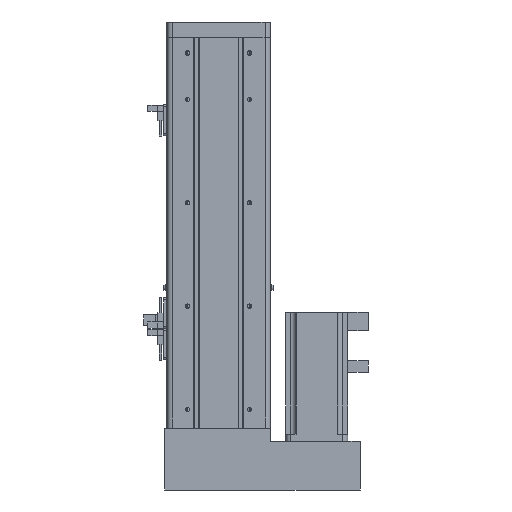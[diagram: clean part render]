
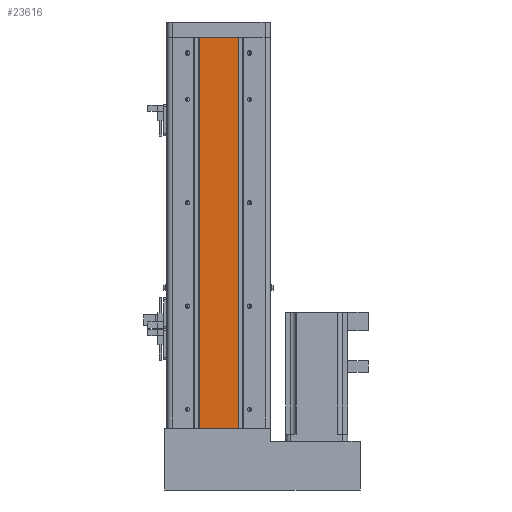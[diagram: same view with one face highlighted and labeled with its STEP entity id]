
A CAD part, front view. The second image highlights one B-rep face of the part: STEP entity #23616.
In plain terms, the highlighted planar face has unit normal (0, -1, 0).
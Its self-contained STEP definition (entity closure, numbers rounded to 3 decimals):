
#15457 = CARTESIAN_POINT ( 'NONE',  ( -25.17, -29.672, 0. ) ) ;
#15460 = DIRECTION ( 'NONE',  ( -1., 0., 0. ) ) ;
#15462 = VECTOR ( 'NONE', #15460, 1000. ) ;
#15465 = CARTESIAN_POINT ( 'NONE',  ( -45.27, -29.672, 0. ) ) ;
#15467 = LINE ( 'NONE', #15465, #15462 ) ;
#15922 = DIRECTION ( 'NONE',  ( -1., 0., 0. ) ) ;
#15923 = VECTOR ( 'NONE', #15922, 1000. ) ;
#15924 = CARTESIAN_POINT ( 'NONE',  ( -51.27, -29.672, 378. ) ) ;
#15925 = LINE ( 'NONE', #15924, #15923 ) ;
#16070 = DIRECTION ( 'NONE',  ( 0., 0., 1. ) ) ;
#16071 = VECTOR ( 'NONE', #16070, 1000. ) ;
#16072 = CARTESIAN_POINT ( 'NONE',  ( -25.17, -29.672, 378. ) ) ;
#16073 = LINE ( 'NONE', #16072, #16071 ) ;
#16076 = DIRECTION ( 'NONE',  ( -1., 0., 0. ) ) ;
#16077 = DIRECTION ( 'NONE',  ( 0., 1., 0. ) ) ;
#16078 = CARTESIAN_POINT ( 'NONE',  ( -51.27, -29.672, 0. ) ) ;
#16079 = AXIS2_PLACEMENT_3D ( 'NONE', #16078, #16077, #16076 ) ;
#16080 = PLANE ( 'NONE',  #16079 ) ;
#16158 = FACE_OUTER_BOUND ( 'NONE', #23617, .T. ) ;
#16275 = CARTESIAN_POINT ( 'NONE',  ( 12.63, -29.672, 378. ) ) ;
#16276 = DIRECTION ( 'NONE',  ( 0., 0., -1. ) ) ;
#16292 = CARTESIAN_POINT ( 'NONE',  ( -25.17, -29.672, 378. ) ) ;
#16301 = CARTESIAN_POINT ( 'NONE',  ( 12.63, -29.672, 0. ) ) ;
#16348 = VECTOR ( 'NONE', #16276, 1000. ) ;
#16349 = CARTESIAN_POINT ( 'NONE',  ( 12.63, -29.672, 378. ) ) ;
#16350 = LINE ( 'NONE', #16349, #16348 ) ;
#23504 = ORIENTED_EDGE ( 'NONE', *, *, #23618, .F. ) ;
#23508 = EDGE_CURVE ( 'NONE', #23621, #23509, #15467, .T. ) ;
#23509 = VERTEX_POINT ( 'NONE', #15457 ) ;
#23541 = ORIENTED_EDGE ( 'NONE', *, *, #23547, .T. ) ;
#23547 = EDGE_CURVE ( 'NONE', #23583, #23627, #15925, .T. ) ;
#23581 = ORIENTED_EDGE ( 'NONE', *, *, #23582, .F. ) ;
#23582 = EDGE_CURVE ( 'NONE', #23583, #23621, #16350, .T. ) ;
#23583 = VERTEX_POINT ( 'NONE', #16275 ) ;
#23616 = ADVANCED_FACE ( 'NONE', ( #16158 ), #16080, .F. ) ;
#23617 = EDGE_LOOP ( 'NONE', ( #23620, #23581, #23541, #23504 ) ) ;
#23618 = EDGE_CURVE ( 'NONE', #23509, #23627, #16073, .T. ) ;
#23620 = ORIENTED_EDGE ( 'NONE', *, *, #23508, .F. ) ;
#23621 = VERTEX_POINT ( 'NONE', #16301 ) ;
#23627 = VERTEX_POINT ( 'NONE', #16292 ) ;
